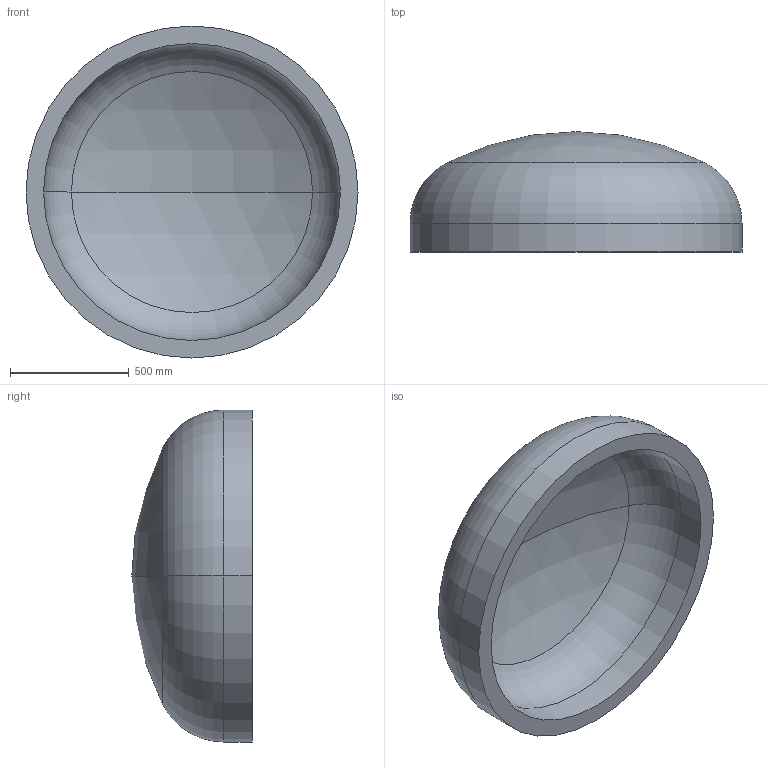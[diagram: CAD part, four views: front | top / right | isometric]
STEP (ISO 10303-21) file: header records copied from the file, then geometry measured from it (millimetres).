
FILE_DESCRIPTION (( 'STEP AP203' ), '1' );
FILE_NAME ('DIN 28013 Korbbogenform_-_Boden DIN 28013 - 1400 x 120 - I - s=74.step', '2016-07-01T10:24:49', ( '' ), ( '' ), 'SwSTEP 2.0', 'SolidWorks 2013', '' );
FILE_SCHEMA (( 'CONFIG_CONTROL_DESIGN' ));
Length unit declared in the file: millimetre
Products named in the file (1): DIN 28013 Korbbogenform_-_Boden DIN 28013 - 1400 x 120 - I - s=74
Bounding box: 1400 x 507.71 x 1400 mm (x, y, z)
Volume: 184339962.8 mm3; surface area: 5301894.5 mm2
Topology: 1 solids, 1 shells, 13 faces, 24 edges, 14 vertices
Faces by surface type: torus 4, cylinder 4, sphere 4, plane 1
Entity records: 407 total; most frequent: DIRECTION 72, CARTESIAN_POINT 52, ORIENTED_EDGE 48, AXIS2_PLACEMENT_3D 34, EDGE_CURVE 24, CIRCLE 20, VERTEX_POINT 14, EDGE_LOOP 14
